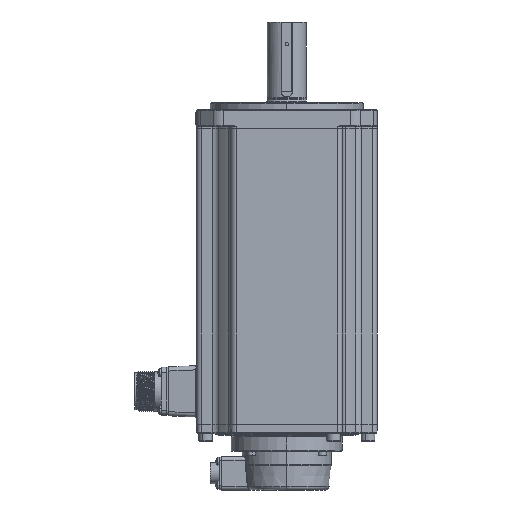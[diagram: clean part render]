
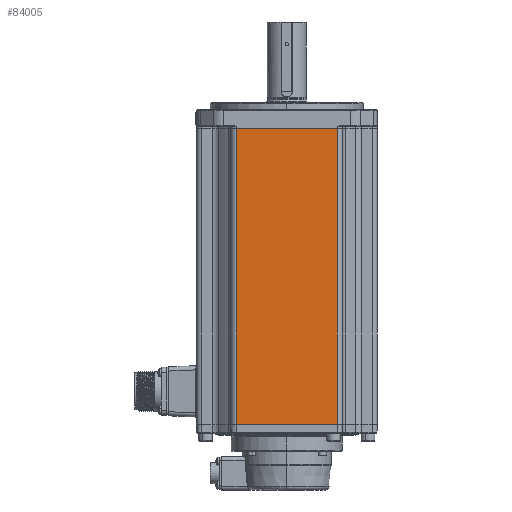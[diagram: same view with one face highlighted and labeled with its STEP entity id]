
A CAD part, left-side view. The second image highlights one B-rep face of the part: STEP entity #84005.
In plain terms, the highlighted planar face has unit normal (-1, 0, 0).
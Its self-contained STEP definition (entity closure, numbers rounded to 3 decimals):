
#126 = EDGE_CURVE ( 'NONE', #30680, #22918, #53455, .T. ) ;
#529 = CARTESIAN_POINT ( 'NONE',  ( -65., -36.401, 212.4 ) ) ;
#3325 = CARTESIAN_POINT ( 'NONE',  ( -65., 36.401, 212.4 ) ) ;
#4897 = LINE ( 'NONE', #3325, #21733 ) ;
#14619 = VECTOR ( 'NONE', #57409, 1000. ) ;
#20604 = DIRECTION ( 'NONE',  ( 0., 1., 0. ) ) ;
#21733 = VECTOR ( 'NONE', #90853, 1000. ) ;
#21760 = VERTEX_POINT ( 'NONE', #52492 ) ;
#22918 = VERTEX_POINT ( 'NONE', #100787 ) ;
#26177 = ORIENTED_EDGE ( 'NONE', *, *, #126, .F. ) ;
#26461 = VECTOR ( 'NONE', #85479, 1000. ) ;
#27871 = ORIENTED_EDGE ( 'NONE', *, *, #44173, .T. ) ;
#30680 = VERTEX_POINT ( 'NONE', #529 ) ;
#43633 = LINE ( 'NONE', #91808, #98641 ) ;
#44173 = EDGE_CURVE ( 'NONE', #51086, #22918, #43633, .T. ) ;
#51086 = VERTEX_POINT ( 'NONE', #63159 ) ;
#52492 = CARTESIAN_POINT ( 'NONE',  ( -65., 36.401, 212.4 ) ) ;
#53455 = LINE ( 'NONE', #78103, #26461 ) ;
#53607 = DIRECTION ( 'NONE',  ( 1., 0., 0. ) ) ;
#54108 = FACE_OUTER_BOUND ( 'NONE', #96500, .T. ) ;
#57409 = DIRECTION ( 'NONE',  ( 0., -1., 0. ) ) ;
#59937 = PLANE ( 'NONE',  #74252 ) ;
#63159 = CARTESIAN_POINT ( 'NONE',  ( -65., 36.401, 0. ) ) ;
#74252 = AXIS2_PLACEMENT_3D ( 'NONE', #84071, #53607, #20604 ) ;
#78103 = CARTESIAN_POINT ( 'NONE',  ( -65., -36.401, 212.4 ) ) ;
#79929 = ORIENTED_EDGE ( 'NONE', *, *, #87279, .F. ) ;
#84005 = ADVANCED_FACE ( 'NONE', ( #54108 ), #59937, .F. ) ;
#84071 = CARTESIAN_POINT ( 'NONE',  ( -65., 0., 212.4 ) ) ;
#85479 = DIRECTION ( 'NONE',  ( 0., 0., -1. ) ) ;
#87279 = EDGE_CURVE ( 'NONE', #21760, #30680, #94652, .T. ) ;
#88652 = ORIENTED_EDGE ( 'NONE', *, *, #102509, .T. ) ;
#89895 = CARTESIAN_POINT ( 'NONE',  ( -65., 0., 212.4 ) ) ;
#90853 = DIRECTION ( 'NONE',  ( 0., 0., -1. ) ) ;
#91808 = CARTESIAN_POINT ( 'NONE',  ( -65., 0., 0. ) ) ;
#94652 = LINE ( 'NONE', #89895, #14619 ) ;
#96500 = EDGE_LOOP ( 'NONE', ( #27871, #26177, #79929, #88652 ) ) ;
#98641 = VECTOR ( 'NONE', #101728, 1000. ) ;
#100787 = CARTESIAN_POINT ( 'NONE',  ( -65., -36.401, 0. ) ) ;
#101728 = DIRECTION ( 'NONE',  ( 0., -1., 0. ) ) ;
#102509 = EDGE_CURVE ( 'NONE', #21760, #51086, #4897, .T. ) ;
